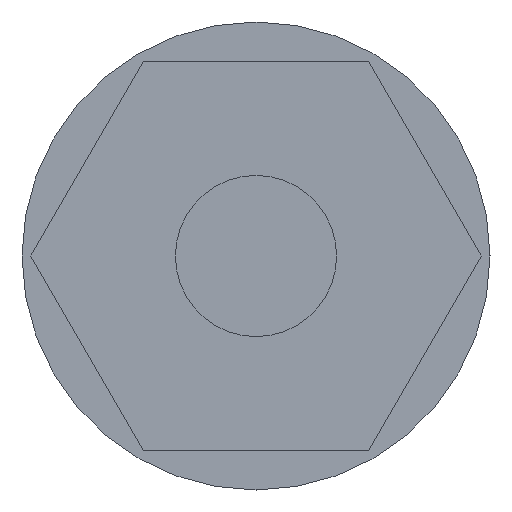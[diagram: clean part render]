
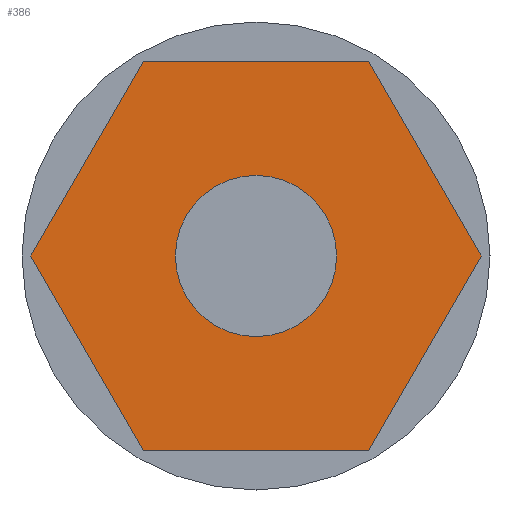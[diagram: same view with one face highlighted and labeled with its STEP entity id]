
A CAD part, left-side view. The second image highlights one B-rep face of the part: STEP entity #386.
In plain terms, the highlighted planar face has unit normal (-1, 0, 0).
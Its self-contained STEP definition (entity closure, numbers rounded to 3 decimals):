
#94=CARTESIAN_POINT('',(-24.11,0.0,2.067));
#95=VERTEX_POINT('',#94);
#96=CARTESIAN_POINT('',(-24.11,0.0,0.0));
#97=DIRECTION('',(1.0,0.0,0.0));
#98=DIRECTION('',(0.0,0.0,1.0));
#99=AXIS2_PLACEMENT_3D('',#96,#97,#98);
#100=CIRCLE('',#99,2.067);
#101=EDGE_CURVE('',#95,#95,#100,.T.);
#189=CARTESIAN_POINT('',(-24.11,-2.887,5.));
#190=VERTEX_POINT('',#189);
#191=CARTESIAN_POINT('',(-24.11,-5.774,0.));
#192=VERTEX_POINT('',#191);
#193=CARTESIAN_POINT('',(-24.11,-2.887,5.));
#194=DIRECTION('',(0.0,-0.5,-0.866));
#195=VECTOR('',#194,5.774);
#196=LINE('',#193,#195);
#197=EDGE_CURVE('',#190,#192,#196,.T.);
#229=CARTESIAN_POINT('',(-24.11,-2.887,-5.0));
#230=VERTEX_POINT('',#229);
#231=CARTESIAN_POINT('',(-24.11,-5.774,0.));
#232=DIRECTION('',(0.0,0.5,-0.866));
#233=VECTOR('',#232,5.774);
#234=LINE('',#231,#233);
#235=EDGE_CURVE('',#192,#230,#234,.T.);
#260=CARTESIAN_POINT('',(-24.11,2.887,-5.));
#261=VERTEX_POINT('',#260);
#262=CARTESIAN_POINT('',(-24.11,-2.887,-5.0));
#263=DIRECTION('',(0.0,1.0,0.0));
#264=VECTOR('',#263,5.774);
#265=LINE('',#262,#264);
#266=EDGE_CURVE('',#230,#261,#265,.T.);
#291=CARTESIAN_POINT('',(-24.11,5.774,0.));
#292=VERTEX_POINT('',#291);
#293=CARTESIAN_POINT('',(-24.11,2.887,-5.));
#294=DIRECTION('',(0.0,0.5,0.866));
#295=VECTOR('',#294,5.774);
#296=LINE('',#293,#295);
#297=EDGE_CURVE('',#261,#292,#296,.T.);
#322=CARTESIAN_POINT('',(-24.11,2.887,5.));
#323=VERTEX_POINT('',#322);
#324=CARTESIAN_POINT('',(-24.11,5.774,0.));
#325=DIRECTION('',(0.0,-0.5,0.866));
#326=VECTOR('',#325,5.774);
#327=LINE('',#324,#326);
#328=EDGE_CURVE('',#292,#323,#327,.T.);
#353=CARTESIAN_POINT('',(-24.11,2.887,5.));
#354=DIRECTION('',(0.0,-1.0,0.0));
#355=VECTOR('',#354,5.774);
#356=LINE('',#353,#355);
#357=EDGE_CURVE('',#323,#190,#356,.T.);
#370=CARTESIAN_POINT('',(-24.11,0.,0.));
#371=DIRECTION('',(1.0,0.0,0.0));
#372=DIRECTION('',(0.0,0.0,-1.0));
#373=AXIS2_PLACEMENT_3D('',#370,#371,#372);
#374=PLANE('',#373);
#375=ORIENTED_EDGE('',*,*,#197,.F.);
#376=ORIENTED_EDGE('',*,*,#357,.F.);
#377=ORIENTED_EDGE('',*,*,#328,.F.);
#378=ORIENTED_EDGE('',*,*,#297,.F.);
#379=ORIENTED_EDGE('',*,*,#266,.F.);
#380=ORIENTED_EDGE('',*,*,#235,.F.);
#381=EDGE_LOOP('',(#375,#376,#377,#378,#379,#380));
#382=FACE_OUTER_BOUND('',#381,.T.);
#383=ORIENTED_EDGE('',*,*,#101,.T.);
#384=EDGE_LOOP('',(#383));
#385=FACE_BOUND('',#384,.T.);
#386=ADVANCED_FACE('',(#382,#385),#374,.F.);
